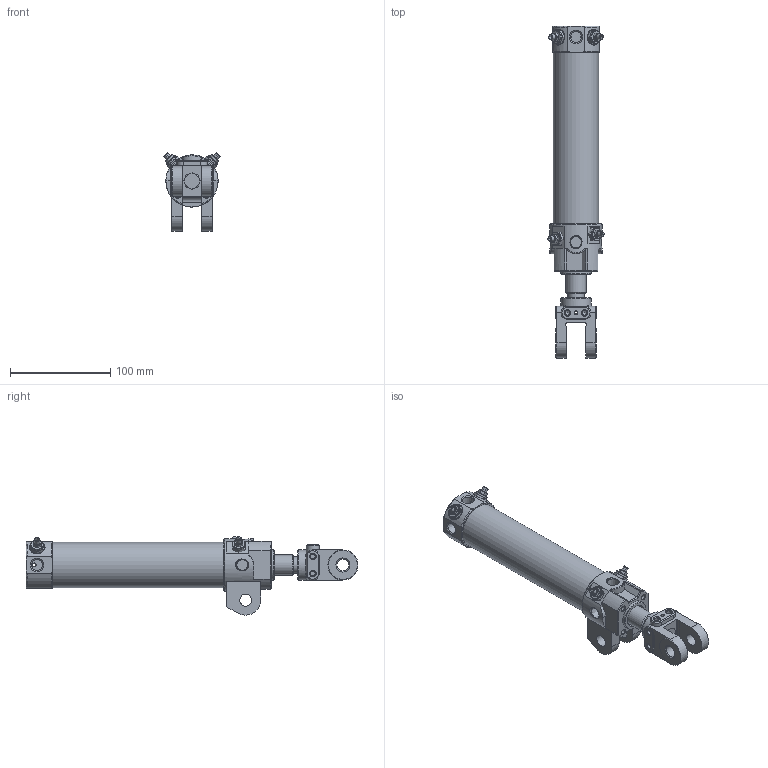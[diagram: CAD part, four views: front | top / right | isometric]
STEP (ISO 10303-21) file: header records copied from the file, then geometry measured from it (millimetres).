
FILE_DESCRIPTION((''),'2;1');
FILE_NAME('I:\3D電子目錄\氣缸\DCK\DCK\DCK-1B-40x125-Y.stp','2008-02-26T11:17:38',('Administrator'),(''),'Autodesk Inventor 11','Autodesk Inventor 11','');
FILE_SCHEMA(('AUTOMOTIVE_DESIGN { 1 0 10303 214 1 1 1 1 }'));
Length unit declared in the file: millimetre
Products named in the file (6): DCK-1B-40-Y; 緩衝針; 緩衝針-1; 緩衝針-201; 緩衝針-3
Assembly tree (8 placements, depth 3):
  DCK-1B-40-Y
    DCK-1B-40-Y
    緩衝針  x4
      緩衝針-1
      緩衝針-201
      緩衝針-3
Bounding box: 56.06 x 331 x 78.02 mm (x, y, z)
Volume: 242270.8 mm3; surface area: 112173.4 mm2
Topology: 15 solids, 15 shells, 729 faces, 1682 edges, 1040 vertices
Faces by surface type: plane 242, cylinder 217, cone 146, bspline 82, torus 40, sphere 2
Full cylindrical faces by diameter (mm): 2 x1, 3 x3, 3.8 x2, 4 x6, 4.6 x4, 5 x8, 5.1 x4, 5.2 x12, 5.5 x4, 7 x1, 7.25 x1, 7.9 x4, 8 x2, 8.3 x1, 10 x2, 12 x4, 12.8 x4, 16 x3, 20 x1, 21 x1, 22 x3, 23 x1, 24.7 x1, 26 x1, 28 x1, 29 x1, 30 x4, 33 x1, 40 x1, 42 x2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
Entity records: 26604 total; most frequent: CARTESIAN_POINT 16488, DIRECTION 1975, ORIENTED_EDGE 1956, EDGE_CURVE 978, AXIS2_PLACEMENT_3D 841, EDGE_LOOP 681, VERTEX_POINT 677, FACE_OUTER_BOUND 478
